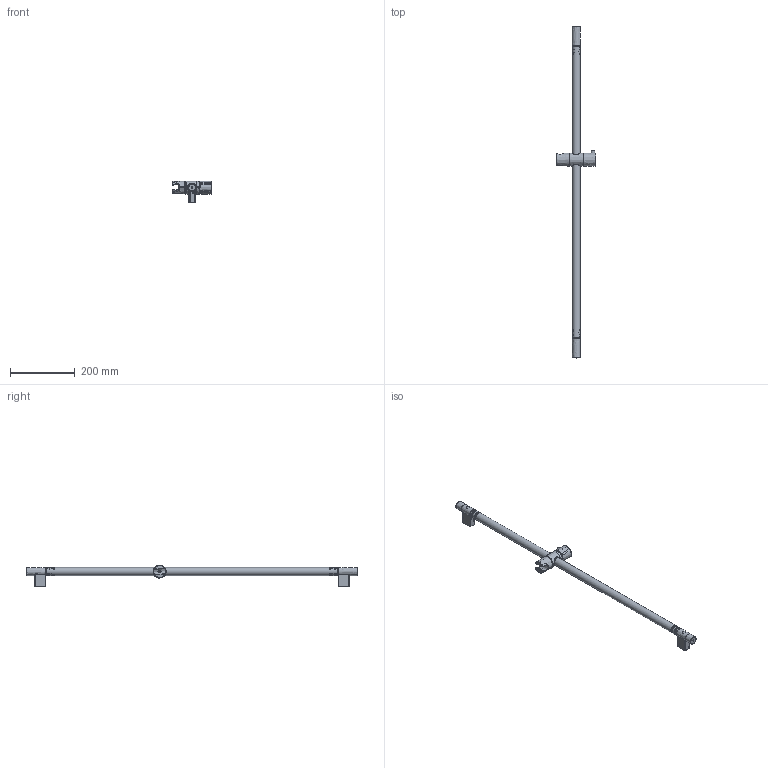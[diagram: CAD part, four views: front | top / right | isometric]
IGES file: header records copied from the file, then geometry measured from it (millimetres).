
Global section: file name: 401ce824-ef30-4f54-b372-ef29d1a69692; native system: unknown; preprocessor: unknown; author: unknown; organization: unknown; date: 20191214.154757; units: millimetre
Bounding box: 122.21 x 1023.4 x 67.5 mm (x, y, z)
Volume: 156381.9 mm3; surface area: 261710.1 mm2
Topology: 17 solids, 17 shells, 747 faces, 2030 edges, 1360 vertices
Faces by surface type: bspline 747
